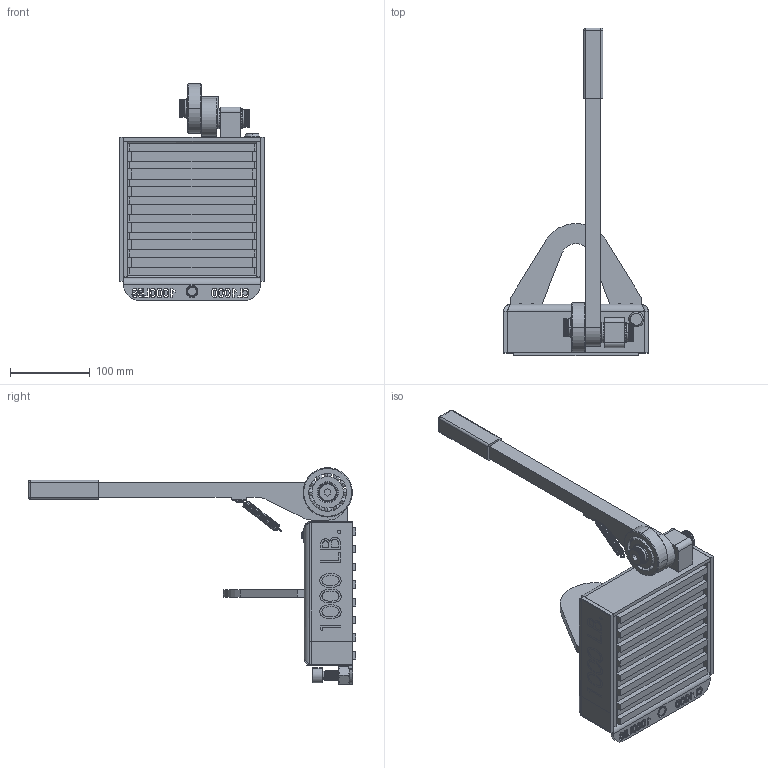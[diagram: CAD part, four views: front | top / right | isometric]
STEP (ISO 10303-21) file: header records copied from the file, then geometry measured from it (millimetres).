
FILE_DESCRIPTION (( 'STEP AP203' ), '1' );
FILE_NAME ('CL1000.STEP', '2018-08-21T20:28:13', ( '' ), ( '' ), 'SwSTEP 2.0', 'SolidWorks 2015', '' );
FILE_SCHEMA (( 'CONFIG_CONTROL_DESIGN' ));
Length unit declared in the file: inch
Products named in the file (1): CL1000
Bounding box: 182.3 x 411.7 x 272.27 mm (x, y, z)
Volume: 2162857.5 mm3; surface area: 671171 mm2
Topology: 51 solids, 51 shells, 2911 faces, 7350 edges, 4619 vertices
Faces by surface type: plane 1622, cylinder 503, bspline 417, cone 338, torus 27, sphere 4
Entity records: 125876 total; most frequent: CARTESIAN_POINT 60073, ORIENTED_EDGE 14598, DIRECTION 11768, EDGE_CURVE 7299, VERTEX_POINT 4620, VECTOR 4460, LINE 4460, AXIS2_PLACEMENT_3D 3654
